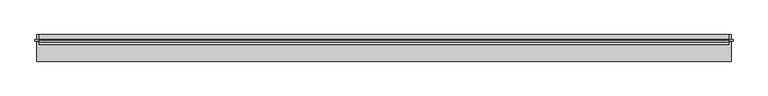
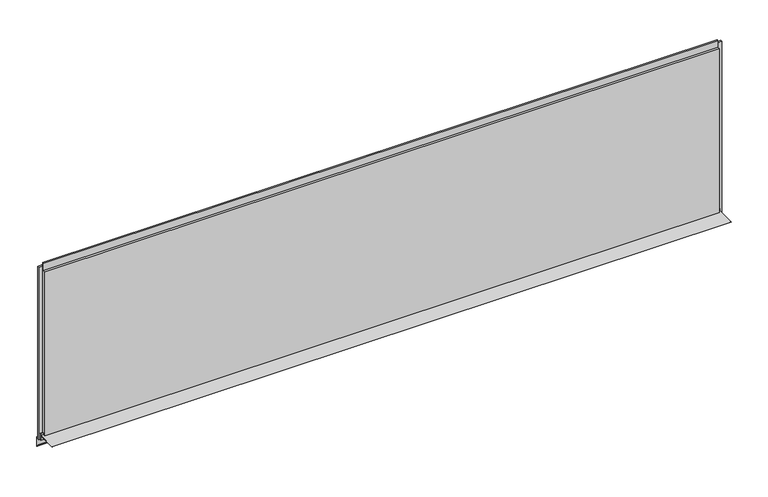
"""IFC4 building model written with IfcOpenShell, lengths in millimetres: plate geometry, Trimo_Qbiss Screen_Normal Panel-HORIZONTAL : HR - B."""

from ifc_helpers import new_model, si_unit, frame, origin, place, context, project, spatial, polyline, outline, extrude, source, transform, mapped, element, save


def plate_e0b0e254(model_context):
    return source(origin(), model_context, "Body", "SweptSolid", [
        extrude(outline(polyline([(66.7, 14.0835797), (67.5, 14.0835797), (67.5, -23.0), (100.0, -25.8433816), (100.0, -76.0), (87.1509533, -63.1509533), (87.7166388, -62.5852679), (99.2, -74.0686292), (99.2, -26.5764465), (66.7, -23.7330649), (66.7, 1.0), (-32.5, 1.0), (-32.5, 1.8), (66.7, 1.8), (66.7, 14.0835797)])), frame((-1732.1, 0.0, 0.0), z_axis=(1.0, 0.0, 0.0), x_axis=(0.0, 1.0, 0.0)), (0.0, 0.0, 1.0), 3464.2),
        extrude(outline(polyline([(-1722.6, 76.5978162), (-1722.6, 67.8978162), (-1741.6, 67.8978162), (-1741.6, 76.5978162), (-1722.6, 76.5978162)])), frame((0.0, 0.0, -20.0), z_axis=(0.0, 0.0, 1.0), x_axis=(1.0, 0.0, 0.0)), (0.0, 0.0, 1.0), 931.5),
        extrude(outline(polyline([(1722.6, 67.8978162), (1722.6, 76.5978162), (1741.6, 76.5978162), (1741.6, 67.8978162), (1722.6, 67.8978162)])), frame((0.0, 0.0, -20.0), z_axis=(0.0, 0.0, 1.0), x_axis=(1.0, 0.0, 0.0)), (0.0, 0.0, 1.0), 931.5),
        extrude(outline(polyline([(1719.6, 76.0), (1719.6, 71.0), (-1719.6, 71.0), (-1719.6, 76.0), (1719.6, 76.0)])), frame((0.0, 0.0, 890.5), z_axis=(0.0, 0.0, 1.0), x_axis=(1.0, 0.0, 0.0)), (0.0, 0.0, 1.0), 21.0),
        extrude(outline(polyline([(71.0, 889.5), (100.0, 889.5), (100.0, 0.0), (72.0, 0.0), (72.0, 15.5), (62.0, 15.5), (62.0, 7.0), (50.0, 7.0), (50.0, 889.5), (63.0, 889.5), (63.0, 927.0), (71.0, 927.0), (71.0, 889.5)])), frame((-1719.6, 0.0, 0.0), z_axis=(1.0, 0.0, 0.0), x_axis=(0.0, 1.0, 0.0)), (0.0, 0.0, 1.0), 3439.2),
    ])


if __name__ == "__main__":
    model = new_model("IFC4")
    model_context = context("Model", 3, world=origin())
    ifc_project = project(units=[si_unit("LENGTHUNIT", "METRE", prefix="MILLI")], contexts=[model_context])
    site = spatial("IfcSite", under=ifc_project)
    building = spatial("IfcBuilding", under=site)
    placement = place(None, origin())
    plate_shape = plate_e0b0e254(model_context)
    element("IfcPlate", 1, ObjectType="Trimo_Qbiss Screen_Normal Panel-HORIZONTAL : HR - B", at=placement, inside=building, context=model_context, shape_type="MappedRepresentation", body=[
        mapped(plate_shape, transform((0.0, 0.0, 0.0), x_axis=(1.0, 0.0, 0.0), y_axis=(0.0, 1.0, 0.0), z_axis=(0.0, 0.0, 1.0))),
    ])
    save(model, "model.ifc")
